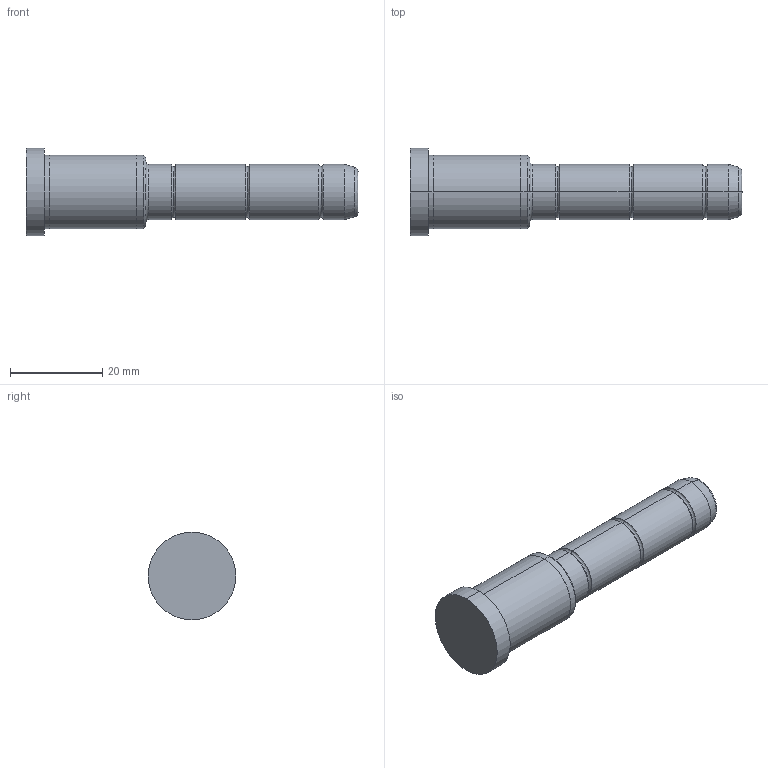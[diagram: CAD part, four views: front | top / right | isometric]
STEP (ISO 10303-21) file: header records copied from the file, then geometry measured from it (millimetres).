
FILE_DESCRIPTION( ( 'STEP AP203' ), '1' );
FILE_NAME( 'D:/Delta 3 D/D02/12/D02 - 12x26x46.step', '2003-01-04T12:28:20', ( ' ' ), ( ' ' ), 'XStep 1.0', ' ', ' ' );
FILE_SCHEMA( ( 'CONFIG_CONTROL_DESIGN' ) );
Length unit declared in the file: metre
Products named in the file (1): 1
Bounding box: 72 x 19 x 19 mm (x, y, z)
Volume: 10675.6 mm3; surface area: 3640.3 mm2
Topology: 1 solids, 1 shells, 42 faces, 82 edges, 46 vertices
Faces by surface type: bspline 22, revolution 20
Entity records: 1325 total; most frequent: CARTESIAN_POINT 517, ORIENTED_EDGE 164, DIRECTION 134, EDGE_CURVE 82, AXIS2_PLACEMENT_3D 47, EDGE_LOOP 46, VERTEX_POINT 46, CIRCLE 46
